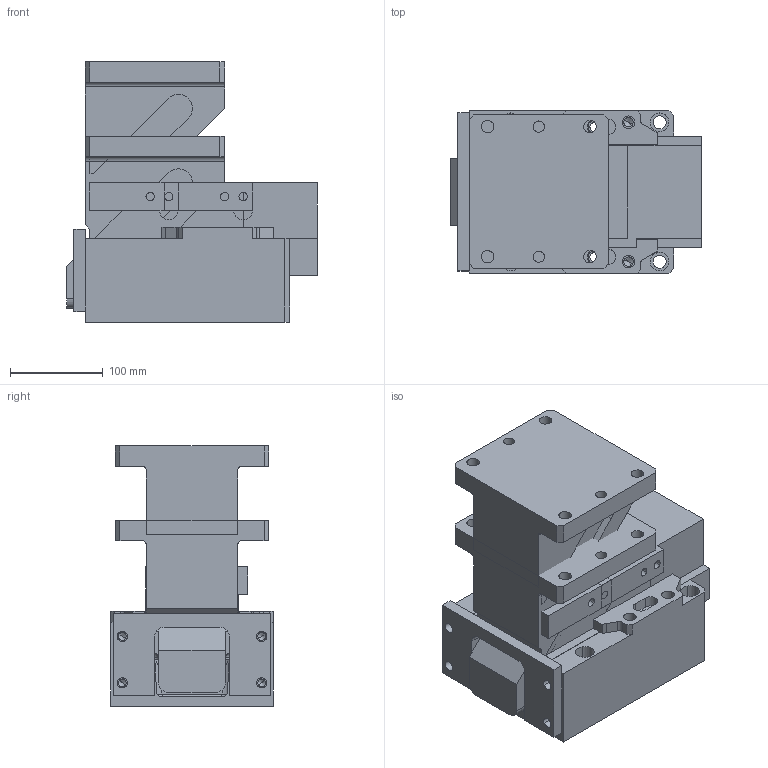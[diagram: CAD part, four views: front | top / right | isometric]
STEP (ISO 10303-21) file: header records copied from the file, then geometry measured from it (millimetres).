
FILE_DESCRIPTION(('CATIA V5 STEP','CAx-IF Rec.Pracs.--- Model Styling and Organization---1.4--- 2014-01-23','CAx-IF Rec.Pracs.---3D Tessellated Data Validation Properties---0.5---2014-09-14'),'2;1');
FILE_NAME('H:\_COMPRESS_2\2016.11.00.100.080.1.2__CM.stp','2020-11-18T12:50:36+00:00',('${USER}'),('AUDI AG, ${GROUP}'),'CATIA Version 5-6 Release 2018 SP3 HF27','CATIA V5 STEP AP242','none');
FILE_SCHEMA(('AP242_MANAGED_MODEL_BASED_3D_ENGINEERING_MIM_LF {1 0 10303 442 1 1 4}'));
Length unit declared in the file: millimetre
Products named in the file (1): 2016.11.00.100.080.1.2__CM
Bounding box: 270 x 175 x 280 mm (x, y, z)
Volume: 9080394.2 mm3; surface area: 711473.1 mm2
Topology: 5 solids, 5 shells, 458 faces, 1173 edges, 750 vertices
Faces by surface type: plane 263, cylinder 165, cone 24, sphere 4, bspline 2
Entity records: 13110 total; most frequent: CARTESIAN_POINT 2520, ORIENTED_EDGE 2300, DIRECTION 1816, EDGE_CURVE 1150, VECTOR 798, LINE 798, VERTEX_POINT 746, AXIS2_PLACEMENT_3D 674
